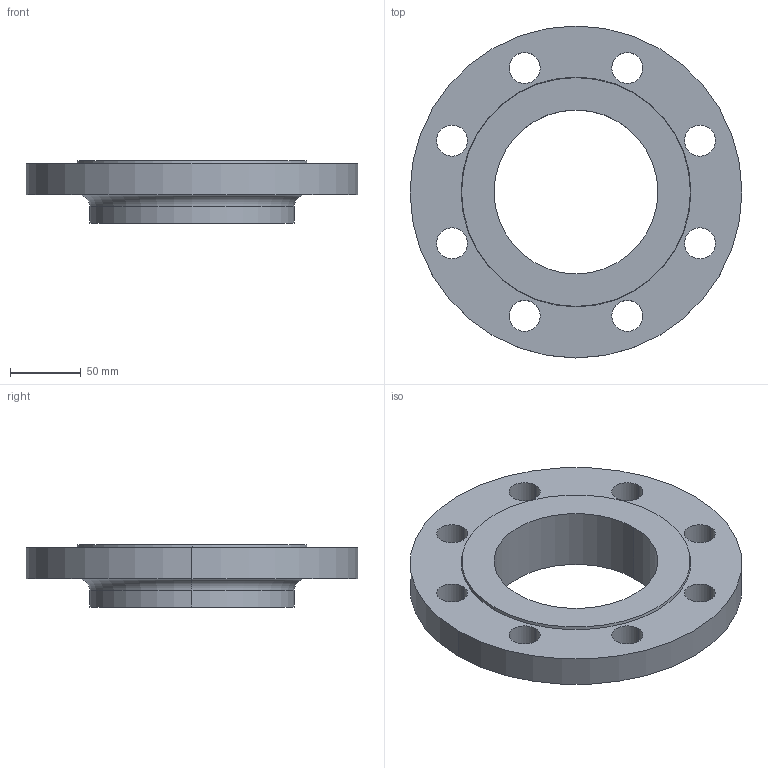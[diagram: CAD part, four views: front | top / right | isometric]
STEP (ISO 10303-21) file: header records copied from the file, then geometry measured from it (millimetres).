
FILE_DESCRIPTION (( 'STEP AP214' ), '1' );
FILE_NAME ('PN40 DN100 Type 12 - Type B Face.STEP', '2019-01-02T00:21:49', ( '' ), ( '' ), 'SwSTEP 2.0', 'SolidWorks 2019', '' );
FILE_SCHEMA (( 'AUTOMOTIVE_DESIGN' ));
Length unit declared in the file: millimetre
Products named in the file (1): PN40 DN100 Type 12 - Type B Face
Bounding box: 235 x 235 x 44 mm (x, y, z)
Volume: 800384.5 mm3; surface area: 112400.4 mm2
Topology: 1 solids, 1 shells, 30 faces, 76 edges, 50 vertices
Faces by surface type: cylinder 22, plane 4, torus 2, cone 2
Entity records: 1006 total; most frequent: DIRECTION 190, CARTESIAN_POINT 157, ORIENTED_EDGE 152, AXIS2_PLACEMENT_3D 83, EDGE_CURVE 76, CIRCLE 52, EDGE_LOOP 50, VERTEX_POINT 50
